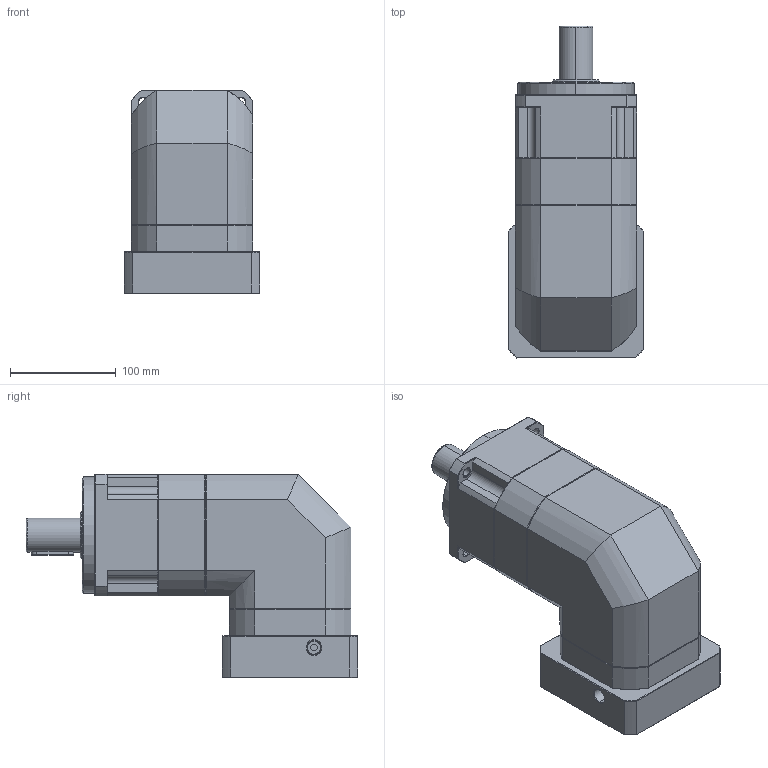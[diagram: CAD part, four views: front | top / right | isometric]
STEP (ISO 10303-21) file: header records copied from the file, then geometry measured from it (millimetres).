
FILE_DESCRIPTION (( 'STEP AP214' ), '1' );
FILE_NAME ('ZPBR115-D32-L2-P1-22-110-145-M8.step', '2024-06-29T08:07:54', ( 'Windows 蚚誧' ), ( 'Organization' ), 'SwSTEP 2.0', 'SolidWorks 2016', '' );
FILE_SCHEMA (( 'AUTOMOTIVE_DESIGN' ));
Length unit declared in the file: millimetre
Products named in the file (1): ZPBR115-D32-L2-P1-22-110-145-M8
Bounding box: 128 x 313.5 x 192.2 mm (x, y, z)
Surface area: 213127.2 mm2 (no closed solid volume)
Topology: 0 solids, 29 shells, 1844 faces, 4961 edges, 3177 vertices
Faces by surface type: plane 941, bspline 381, cone 286, cylinder 236
Full cylindrical faces by diameter (mm): 10.2 x1
Entity records: 99666 total; most frequent: CARTESIAN_POINT 49414, ORIENTED_EDGE 9892, DIRECTION 7592, EDGE_CURVE 4955, LINE 3200, VECTOR 3200, VERTEX_POINT 3175, AXIS2_PLACEMENT_3D 2196
